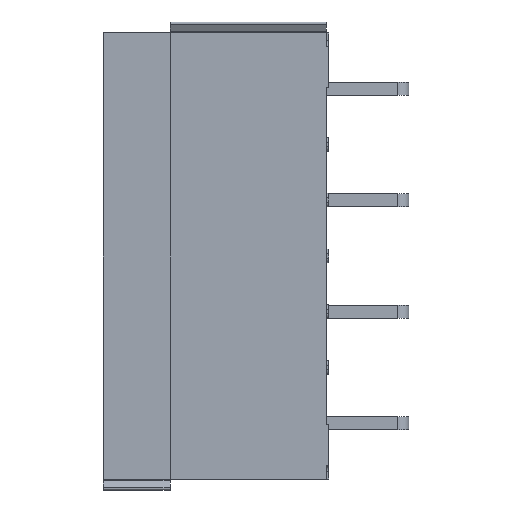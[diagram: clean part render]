
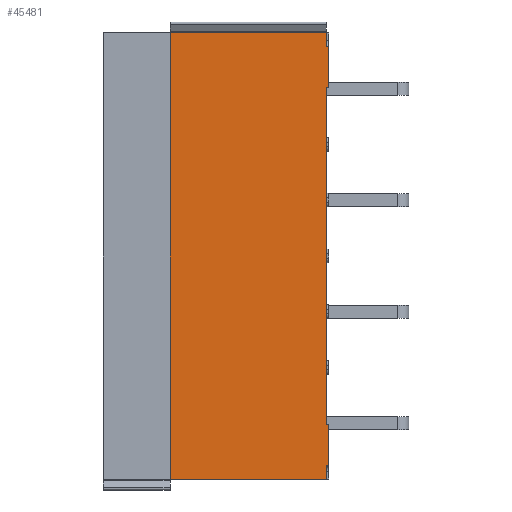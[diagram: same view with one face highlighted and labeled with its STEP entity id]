
A CAD part, left-side view. The second image highlights one B-rep face of the part: STEP entity #45481.
In plain terms, the highlighted planar face has unit normal (-1, 0, 0).
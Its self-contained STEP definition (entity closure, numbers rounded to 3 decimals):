
#102=DIRECTION('',(0.,0.,1.));
#103=VECTOR('',#102,20.);
#104=CARTESIAN_POINT('',(0.,7.1,-20.49));
#105=LINE('',#104,#103);
#201=DIRECTION('',(0.,0.,-1.));
#202=VECTOR('',#201,1.85);
#203=CARTESIAN_POINT('',(0.,0.,-18.04));
#204=LINE('',#203,#202);
#213=DIRECTION('',(0.,-1.,0.));
#214=VECTOR('',#213,0.1);
#215=CARTESIAN_POINT('',(0.,0.1,-18.04));
#216=LINE('',#215,#214);
#513=DIRECTION('',(0.,0.,-1.));
#514=VECTOR('',#513,15.1);
#515=CARTESIAN_POINT('',(0.,0.1,-2.94));
#516=LINE('',#515,#514);
#17368=DIRECTION('',(0.,0.,-1.));
#17369=VECTOR('',#17368,1.85);
#17370=CARTESIAN_POINT('',(0.,0.,-1.09));
#17371=LINE('',#17370,#17369);
#17402=DIRECTION('',(0.,1.,0.));
#17403=VECTOR('',#17402,0.1);
#17404=CARTESIAN_POINT('',(0.,0.,-2.94));
#17405=LINE('',#17404,#17403);
#17406=DIRECTION('',(0.,0.,1.));
#17407=VECTOR('',#17406,0.6);
#17408=CARTESIAN_POINT('',(0.,0.1,-20.49));
#17409=LINE('',#17408,#17407);
#17410=DIRECTION('',(0.,-1.,0.));
#17411=VECTOR('',#17410,7.);
#17412=CARTESIAN_POINT('',(0.,7.1,-20.49));
#17413=LINE('',#17412,#17411);
#17418=DIRECTION('',(0.,-1.,0.));
#17419=VECTOR('',#17418,7.);
#17420=CARTESIAN_POINT('',(0.,7.1,-0.49));
#17421=LINE('',#17420,#17419);
#17430=DIRECTION('',(0.,0.,-1.));
#17431=VECTOR('',#17430,0.6);
#17432=CARTESIAN_POINT('',(0.,0.1,-0.49));
#17433=LINE('',#17432,#17431);
#17523=DIRECTION('',(0.,-1.,0.));
#17524=VECTOR('',#17523,0.1);
#17525=CARTESIAN_POINT('',(0.,0.1,-1.09));
#17526=LINE('',#17525,#17524);
#17531=DIRECTION('',(0.,1.,0.));
#17532=VECTOR('',#17531,0.1);
#17533=CARTESIAN_POINT('',(0.,0.,-19.89));
#17534=LINE('',#17533,#17532);
#18676=CARTESIAN_POINT('',(0.,7.1,-20.49));
#18677=VERTEX_POINT('',#18676);
#18678=CARTESIAN_POINT('',(0.,0.1,-20.49));
#18679=VERTEX_POINT('',#18678);
#18684=CARTESIAN_POINT('',(0.,0.1,-19.89));
#18685=VERTEX_POINT('',#18684);
#18704=CARTESIAN_POINT('',(0.,0.1,-0.49));
#18705=CARTESIAN_POINT('',(0.,0.1,-1.09));
#18706=VERTEX_POINT('',#18704);
#18707=VERTEX_POINT('',#18705);
#18708=CARTESIAN_POINT('',(0.,0.,-1.09));
#18709=VERTEX_POINT('',#18708);
#18710=CARTESIAN_POINT('',(0.,0.,-2.94));
#18711=VERTEX_POINT('',#18710);
#18712=CARTESIAN_POINT('',(0.,0.1,-2.94));
#18713=VERTEX_POINT('',#18712);
#18714=CARTESIAN_POINT('',(0.,0.1,-18.04));
#18715=VERTEX_POINT('',#18714);
#18716=CARTESIAN_POINT('',(0.,0.,-18.04));
#18717=VERTEX_POINT('',#18716);
#18718=CARTESIAN_POINT('',(0.,0.,-19.89));
#18719=VERTEX_POINT('',#18718);
#18720=CARTESIAN_POINT('',(0.,7.1,-0.49));
#18721=VERTEX_POINT('',#18720);
#45458=CARTESIAN_POINT('',(0.,10.103,-20.49));
#45459=DIRECTION('',(-1.,0.,0.));
#45460=DIRECTION('',(0.,-1.,0.));
#45461=AXIS2_PLACEMENT_3D('',#45458,#45459,#45460);
#45462=PLANE('',#45461);
#45464=ORIENTED_EDGE('',*,*,#45463,.T.);
#45466=ORIENTED_EDGE('',*,*,#45465,.T.);
#45468=ORIENTED_EDGE('',*,*,#45467,.T.);
#45469=ORIENTED_EDGE('',*,*,#45401,.T.);
#45470=ORIENTED_EDGE('',*,*,#45453,.T.);
#45471=ORIENTED_EDGE('',*,*,#22969,.T.);
#45472=ORIENTED_EDGE('',*,*,#22832,.T.);
#45473=ORIENTED_EDGE('',*,*,#22817,.T.);
#45475=ORIENTED_EDGE('',*,*,#45474,.T.);
#45476=ORIENTED_EDGE('',*,*,#22575,.F.);
#45477=ORIENTED_EDGE('',*,*,#22560,.F.);
#45478=ORIENTED_EDGE('',*,*,#22654,.T.);
#45479=EDGE_LOOP('',(#45464,#45466,#45468,#45469,#45470,#45471,#45472,#45473,
#45475,#45476,#45477,#45478));
#45480=FACE_OUTER_BOUND('',#45479,.F.);
#45481=ADVANCED_FACE('',(#45480),#45462,.T.);
#22560=EDGE_CURVE('',#18677,#18679,#17413,.T.);
#22575=EDGE_CURVE('',#18679,#18685,#17409,.T.);
#22654=EDGE_CURVE('',#18677,#18721,#105,.T.);
#22817=EDGE_CURVE('',#18717,#18719,#204,.T.);
#22832=EDGE_CURVE('',#18715,#18717,#216,.T.);
#22969=EDGE_CURVE('',#18713,#18715,#516,.T.);
#45401=EDGE_CURVE('',#18709,#18711,#17371,.T.);
#45453=EDGE_CURVE('',#18711,#18713,#17405,.T.);
#45463=EDGE_CURVE('',#18721,#18706,#17421,.T.);
#45465=EDGE_CURVE('',#18706,#18707,#17433,.T.);
#45467=EDGE_CURVE('',#18707,#18709,#17526,.T.);
#45474=EDGE_CURVE('',#18719,#18685,#17534,.T.);
